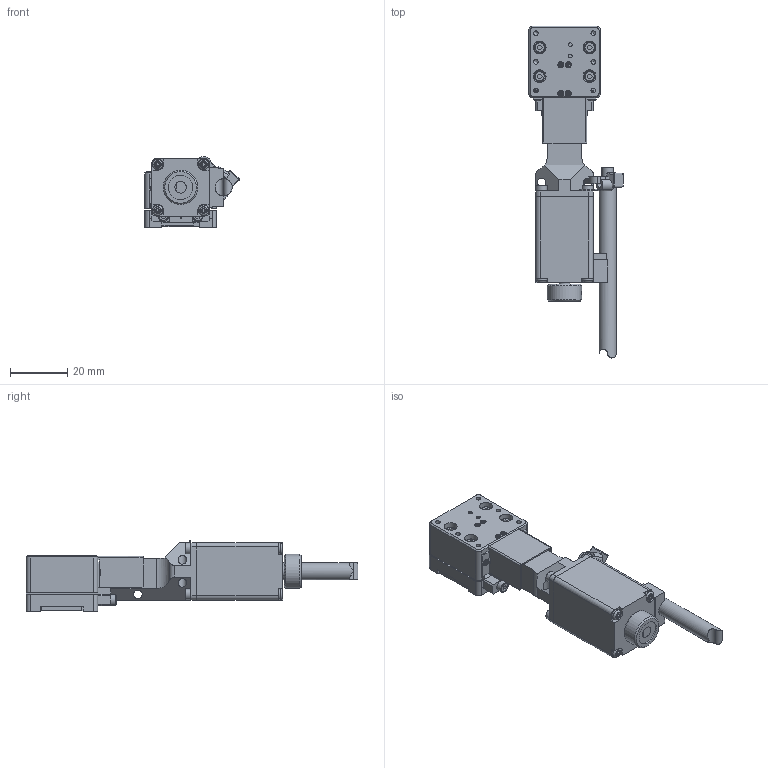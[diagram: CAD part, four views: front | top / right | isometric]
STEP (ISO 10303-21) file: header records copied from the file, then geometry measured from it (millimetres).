
FILE_DESCRIPTION(/* description */ (''),/* implementation_level */ '2;1');
FILE_NAME(/* name */ '\\FS301\share\Public_Div\生産本部_光学機器部\1_MEKA\4_開発\02_FDBI(2018年)\FDBI-008\ｸﾛｽﾛｰﾗtype_φ3_18501\量産図面\OSCM25-10X_STP.stp',/* time_stamp */ '2019-06-13T13:54:54+09:00',/* author */ ('s.makino'),/* organization */ (''),/* preprocessor_version */ 'ST-DEVELOPER v16.13',/* originating_system */ 'Autodesk Inventor 2018',/* authorisation */ '');
FILE_SCHEMA (('AUTOMOTIVE_DESIGN { 1 0 10303 214 3 1 1 }'));
Length unit declared in the file: millimetre
Products named in the file (3): OSCM251-M02-19001-TS01; OSCM251-M02-19001-S01; OSCM251-M02-19001-S02
Assembly tree (2 placements, depth 2):
  OSCM251-M02-19001-TS01
    OSCM251-M02-19001-S01
    OSCM251-M02-19001-S02
Bounding box: 32.96 x 115.75 x 24.74 mm (x, y, z)
Volume: 29664.1 mm3; surface area: 20025.6 mm2
Topology: 2 solids, 55 shells, 1623 faces, 4035 edges, 2599 vertices
Faces by surface type: plane 1023, cylinder 365, cone 195, torus 28, bspline 8, sphere 4
Full cylindrical faces by diameter (mm): 1 x2, 1.2 x4, 1.3 x12, 1.4 x4, 1.567 x11, 1.6 x26, 1.7 x2, 1.8 x8, 2 x16, 2.1 x4, 2.5 x24, 2.6 x4, 3 x22, 3.6 x8, 3.7 x4, 3.8 x10, 4 x4, 4.5 x8, 4.6 x1, 5 x2, 6 x1, 6.5 x2, 7 x1, 7.5 x1, 8 x4, 8.5 x1, 12 x1, 16 x1
Entity records: 47625 total; most frequent: CARTESIAN_POINT 10119, DIRECTION 7613, ORIENTED_EDGE 7136, EDGE_CURVE 3566, AXIS2_PLACEMENT_3D 2713, VERTEX_POINT 2477, LINE 2187, VECTOR 2187
